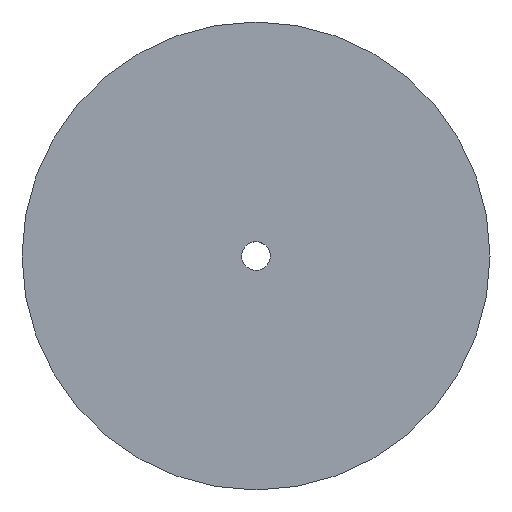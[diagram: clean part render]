
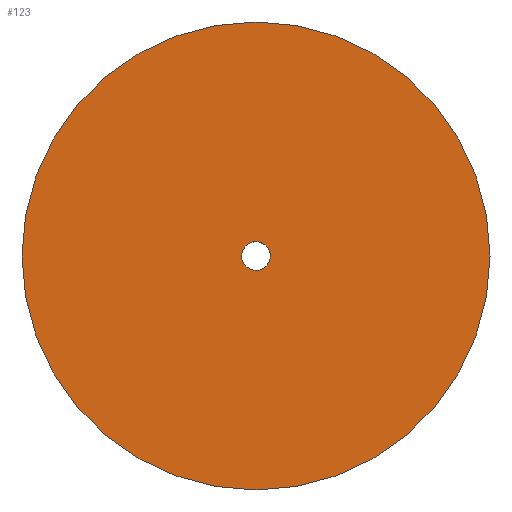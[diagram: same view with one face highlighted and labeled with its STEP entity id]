
A CAD part, top view. The second image highlights one B-rep face of the part: STEP entity #123.
In plain terms, the highlighted planar face has unit normal (0, 0, 1).
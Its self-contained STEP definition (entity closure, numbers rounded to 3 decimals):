
#62=CARTESIAN_POINT('Vertex',(-2.852,1.558,0.)) ;
#76=CARTESIAN_POINT('Vertex',(2.852,-1.558,0.)) ;
#79=CARTESIAN_POINT('Axis2P3D Location',(0.,0.,0.)) ;
#91=CARTESIAN_POINT('Axis2P3D Location',(0.,0.,0.)) ;
#96=CARTESIAN_POINT('Axis2P3D Location',(0.,0.,0.)) ;
#100=CARTESIAN_POINT('Vertex',(53.,0.,0.)) ;
#102=CARTESIAN_POINT('Vertex',(-53.,0.,0.)) ;
#105=CARTESIAN_POINT('Axis2P3D Location',(0.,0.,0.)) ;
#114=CARTESIAN_POINT('Axis2P3D Location',(0.,0.,0.)) ;
#80=DIRECTION('Axis2P3D Direction',(0.,-0.,-1.)) ;
#92=DIRECTION('Axis2P3D Direction',(0.,0.,1.)) ;
#93=DIRECTION('Axis2P3D XDirection',(1.,0.,0.)) ;
#97=DIRECTION('Axis2P3D Direction',(0.,0.,1.)) ;
#106=DIRECTION('Axis2P3D Direction',(0.,0.,1.)) ;
#115=DIRECTION('Axis2P3D Direction',(0.,0.,1.)) ;
#81=AXIS2_PLACEMENT_3D('Circle Axis2P3D',#79,#80,$) ;
#94=AXIS2_PLACEMENT_3D('Plane Axis2P3D',#91,#92,#93) ;
#98=AXIS2_PLACEMENT_3D('Circle Axis2P3D',#96,#97,$) ;
#107=AXIS2_PLACEMENT_3D('Circle Axis2P3D',#105,#106,$) ;
#116=AXIS2_PLACEMENT_3D('Circle Axis2P3D',#114,#115,$) ;
#111=ORIENTED_EDGE('',*,*,#104,.F.) ;
#112=ORIENTED_EDGE('',*,*,#109,.F.) ;
#120=ORIENTED_EDGE('',*,*,#118,.F.) ;
#121=ORIENTED_EDGE('',*,*,#83,.F.) ;
#122=FACE_BOUND('',#119,.T.) ;
#123=ADVANCED_FACE('PartBody',(#113,#122),#95,.T.) ;
#82=CIRCLE('generated circle',#81,3.25) ;
#99=CIRCLE('generated circle',#98,53.) ;
#108=CIRCLE('generated circle',#107,53.) ;
#117=CIRCLE('generated circle',#116,3.25) ;
#83=EDGE_CURVE('',#77,#63,#82,.F.) ;
#104=EDGE_CURVE('',#101,#103,#99,.F.) ;
#109=EDGE_CURVE('',#103,#101,#108,.F.) ;
#118=EDGE_CURVE('',#63,#77,#117,.T.) ;
#110=EDGE_LOOP('',(#111,#112)) ;
#119=EDGE_LOOP('',(#120,#121)) ;
#113=FACE_OUTER_BOUND('',#110,.T.) ;
#95=PLANE('',#94) ;
#63=VERTEX_POINT('',#62) ;
#77=VERTEX_POINT('',#76) ;
#101=VERTEX_POINT('',#100) ;
#103=VERTEX_POINT('',#102) ;
